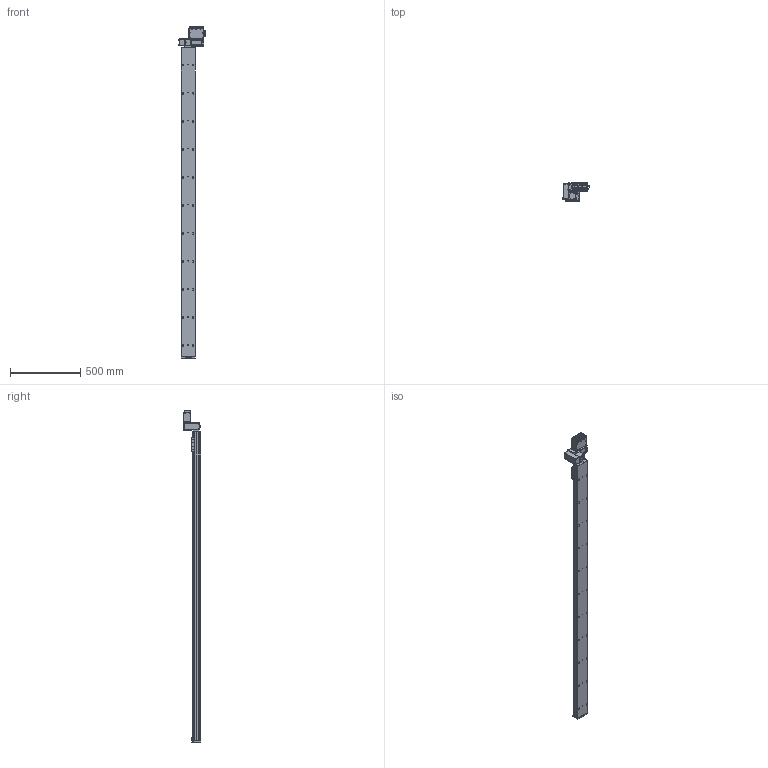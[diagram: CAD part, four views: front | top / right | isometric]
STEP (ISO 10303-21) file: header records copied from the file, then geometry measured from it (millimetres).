
FILE_DESCRIPTION (( 'STEP AP203' ), '1' );
FILE_NAME ('S10 TBN LT S2200.STEP', '2012-06-19T13:31:51', ( 'Conseil Régional Haute-Normandie' ), ( 'Conseil Régional Haute-Normandie' ), 'SwSTEP 2.0', 'SolidWorks 2010', '' );
FILE_SCHEMA (( 'CONFIG_CONTROL_DESIGN' ));
Length unit declared in the file: millimetre
Products named in the file (30): embout; plaque de bout s10_Default; palette tbn; vis M5 L5_Default; Assem1_7; Moteur 60BLDC90A_3; Couvercle_3; T_X2_00F4_X0_le fond_3; Colonnette ronde_3; T_X2_00F4_X0_le Arri_X2_00E8_X0_re_5; S10 TBN LT S2200; cache t皻e axe_Default; cache t皻e_Default; Cvis M5 L30_Default; Plaque racord_Default; renvoi LH_Default; vis M5 L12_Default; Vis M5 L16-2_Default_1; T_X2_00F4_X0_le contre le moteur_5; BU41 Carte Alimentation P05_3; Colonnette_3; BU45 Carte d''axe A11_5; Connecteur rond D10 3cts_5; Connecteur rond D12 4cts_5; Sub D 9cts 90_X2_00B_X0__3; Radiateur profil_X2_00E9_X0_ 100x25_3; T_X2_00F4_X0_le lat_X2_00E9_X0_rale_5; Vis TF 3 torkx_1_1; axe2200_Default; axe 2200
Assembly tree (63 placements, depth 3):
  S10 TBN LT S2200
    vis M5 L12_Default  x4
    cache t皻e axe_Default
    Vis M5 L16-2_Default_1  x4
    Assem1_7
      Vis TF 3 torkx_1_1  x21
      BU45 Carte d''axe A11_5
      Couvercle_3
      T_X2_00F4_X0_le Arri_X2_00E8_X0_re_5
      T_X2_00F4_X0_le lat_X2_00E9_X0_rale_5  x2
      Colonnette ronde_3
      Colonnette_3  x2
      T_X2_00F4_X0_le fond_3
      Moteur 60BLDC90A_3
      Connecteur rond D10 3cts_5  x2
      T_X2_00F4_X0_le contre le moteur_5
      Connecteur rond D12 4cts_5
      BU41 Carte Alimentation P05_3
      Sub D 9cts 90_X2_00B_X0__3
      Radiateur profil_X2_00E9_X0_ 100x25_3
    plaque de bout s10_Default
    vis M5 L5_Default  x4
    Plaque racord_Default
    axe2200_Default
      axe 2200
    cache t皻e_Default  x2
    Cvis M5 L30_Default  x2
    embout
    renvoi LH_Default
    palette tbn
Bounding box: 189.8 x 127 x 2366.49 mm (x, y, z)
Volume: 12245553 mm3; surface area: 1346814.4 mm2
Topology: 61 solids, 61 shells, 2360 faces, 5844 edges, 3767 vertices
Faces by surface type: plane 1111, cylinder 1024, cone 182, bspline 40, torus 3
Entity records: 49584 total; most frequent: CARTESIAN_POINT 8903, DIRECTION 8037, ORIENTED_EDGE 7268, EDGE_CURVE 3634, AXIS2_PLACEMENT_3D 3000, VERTEX_POINT 2371, VECTOR 2037, LINE 2037
